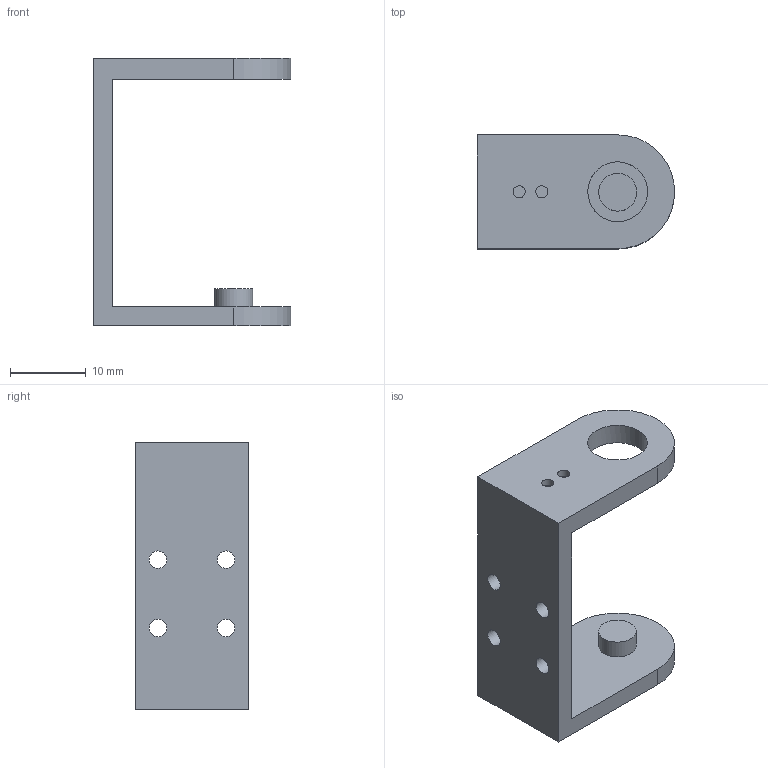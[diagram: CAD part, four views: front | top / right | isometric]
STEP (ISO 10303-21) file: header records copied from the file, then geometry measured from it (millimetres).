
FILE_DESCRIPTION(('FreeCAD Model'),'2;1');
FILE_NAME('Open CASCADE Shape Model','2026-11-08T20:38:38',('FreeCAD'),( 'FreeCAD'),'Open CASCADE STEP processor 7.8','FreeCAD','Unknown');
FILE_SCHEMA(('AUTOMOTIVE_DESIGN { 1 0 10303 214 1 1 1 1 }'));
Length unit declared in the file: millimetre
Products named in the file (1): Open CASCADE STEP translator 7.8 2
Bounding box: 26 x 15 x 35.3 mm (x, y, z)
Volume: 2811.8 mm3; surface area: 2932.8 mm2
Topology: 1 solids, 1 shells, 24 faces, 70 edges, 48 vertices
Faces by surface type: cylinder 12, plane 12
Full cylindrical faces by diameter (mm): 1.6 x2, 2.3 x4, 5 x1, 7.9 x1
Entity records: 854 total; most frequent: DIRECTION 150, CARTESIAN_POINT 143, ORIENTED_EDGE 140, EDGE_CURVE 70, AXIS2_PLACEMENT_3D 55, VERTEX_POINT 48, LINE 40, VECTOR 40
